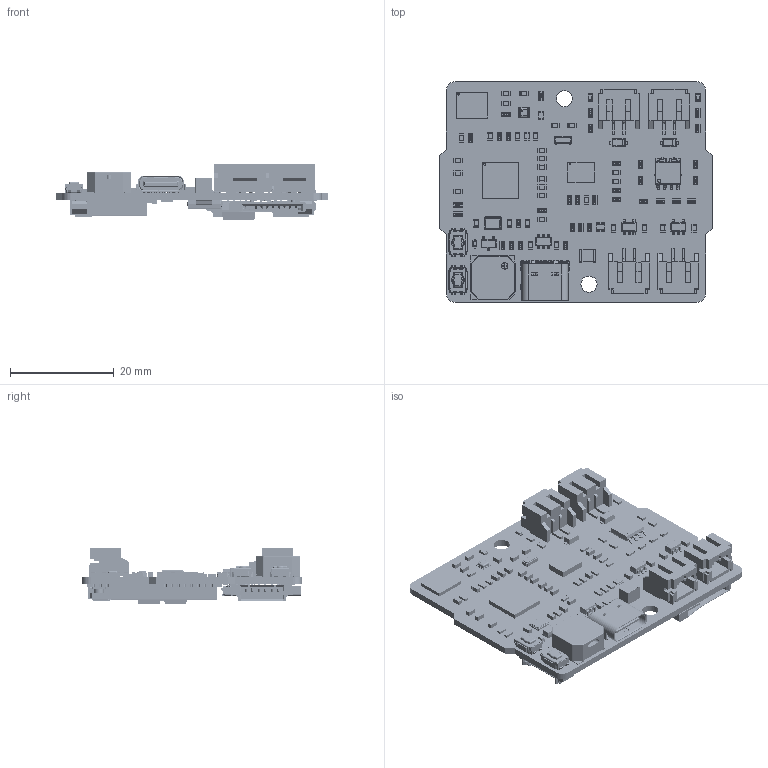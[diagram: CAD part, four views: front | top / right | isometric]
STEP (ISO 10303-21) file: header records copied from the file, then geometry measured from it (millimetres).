
FILE_DESCRIPTION(('Open CASCADE Model'),'2;1');
FILE_NAME('Open CASCADE Shape Model','2026-05-20T13:36:56',('Author'),( 'Open CASCADE'),'Open CASCADE STEP processor 7.5','Open CASCADE 7.5' ,'Unknown');
FILE_SCHEMA(('AUTOMOTIVE_DESIGN { 1 0 10303 214 1 1 1 1 }'));
Length unit declared in the file: millimetre
Products named in the file (148): PCB; Board; Open CASCADE STEP translator 7.5 2.1.1; U6; 5579828864; D7; 5579828064; R44; 0603 resistor; R43; R42; R41; R40; R30; R29; LS1; PUI Audio - SMT-0827-S-2-R; U5; SQJB68EP-T1_GE3; Y2; Abracon ABS07; Y1; NDK NX3225SA; uSD1; User Library-MEM2055-00-190-01-A_revG; UART0; 532610471--3DModel-STEP-194946; UART1; U3; BNO055--3DModel-STEP-56544; U2; User Library-8 WSON; U1; 5579828944; S2; Panasonic - EVQP2; Boot; R39; R38; R37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
Assembly tree (237 placements, depth 4):
  PCB
    Board
      Open CASCADE STEP translator 7.5 2.1.1
    U6
      5579828864
    D7
      5579828064
    R44
      0603 resistor
    R43
      0603 resistor
    R42
      0603 resistor
    R41
      0603 resistor
    R40
      0603 resistor
    R30
      0603 resistor
    R29
      0603 resistor
    LS1
      PUI Audio - SMT-0827-S-2-R
    U5
      SQJB68EP-T1_GE3
    Y2
      Abracon ABS07
    Y1
      NDK NX3225SA
    uSD1
      User Library-MEM2055-00-190-01-A_revG
    UART0
      532610471--3DModel-STEP-194946
    UART1
      532610471--3DModel-STEP-194946
    U3
      BNO055--3DModel-STEP-56544
    U2
      User Library-8 WSON
    U1
      5579828944
    S2
      Panasonic - EVQP2
    Boot
      Panasonic - EVQP2
    R39
      0603 resistor
    R38
      0603 resistor
    R37
      0603 resistor
    R36
      0603 resistor
    R35
      0603 resistor
    R34
      0603 resistor
    R33
      0603 resistor
    R32
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Bounding box: 52.5 x 42.5 x 10.9 mm (x, y, z)
Volume: 4919.2 mm3; surface area: 13323.8 mm2
Topology: 381 solids, 1297 shells, 11484 faces, 33664 edges, 23574 vertices
Faces by surface type: plane 8099, cylinder 2485, sphere 698, bspline 93, torus 76, cone 33
Full cylindrical faces by diameter (mm): 0.399 x1, 0.4 x2, 0.65 x2, 0.7 x2, 0.9 x2, 0.95 x2, 1.1 x1, 1.2 x2, 1.25 x1, 3 x1, 3.1 x2, 3.9 x1, 3.95 x1
Entity records: 239571 total; most frequent: CARTESIAN_POINT 50976, DIRECTION 33143, ORIENTED_EDGE 31956, EDGE_CURVE 18530, LINE 14903, VECTOR 14903, VERTEX_POINT 13790, AXIS2_PLACEMENT_3D 9120
